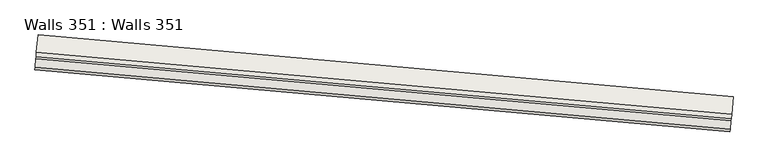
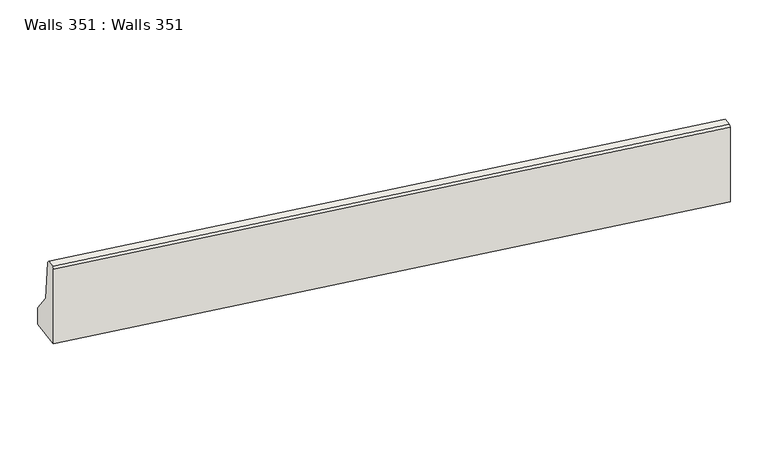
"""IFC4 building model written with IfcOpenShell, lengths in millimetres: wall geometry, Walls 351 : Walls 351."""

from ifc_helpers import new_model, si_unit, origin, place, context, project, spatial, faceted_brep, source, transform, mapped, element, save


def walls_351_walls_351_e7033e0b(model_context):
    return source(origin(), model_context, "Body", "Brep", [
        faceted_brep([(-750369.3142775, -412231.0213133, 637935.0), (-750367.0958443, -412206.1199367, 637960.0), (-750358.2221118, -412106.5144305, 637960.0), (-750356.0036787, -412081.6130539, 637935.0), (-750351.5668124, -412031.8103008, 637430.0), (-750333.8193474, -411832.5992884, 637180.0), (-750333.8193474, -411832.5992884, 636960.0), (-750369.3142775, -412231.0213133, 636960.0), (-742400.8737792, -412940.9199145, 637435.0), (-742400.8737792, -412940.9199145, 636460.0), (-742365.3788491, -412542.4978896, 636460.0), (-742365.3788491, -412542.4978896, 636680.0), (-742383.1263142, -412741.708902, 636930.0), (-742387.5631804, -412791.5116552, 637435.0), (-742389.7816135, -412816.4130317, 637460.0), (-742398.6553461, -412916.0185379, 637460.0)], [[[0, 1, 2, 3, 4, 5, 6, 7]], [[8, 9, 10, 11, 12, 13, 14, 15]], [[8, 15, 1, 0]], [[15, 14, 2, 1]], [[14, 13, 3, 2]], [[13, 12, 4, 3]], [[12, 11, 5, 4]], [[11, 10, 6, 5]], [[10, 9, 7, 6]], [[9, 8, 0, 7]]]),
    ])


if __name__ == "__main__":
    model = new_model("IFC4")
    model_context = context("Model", 3, world=origin())
    ifc_project = project(units=[si_unit("LENGTHUNIT", "METRE", prefix="MILLI")], contexts=[model_context])
    site = spatial("IfcSite", under=ifc_project)
    building = spatial("IfcBuilding", under=site)
    placement = place(None, origin())
    walls_351_walls_351_shape = walls_351_walls_351_e7033e0b(model_context)
    element("IfcWall", 1, ObjectType="Walls 351 : Walls 351", at=placement, inside=building, context=model_context, shape_type="MappedRepresentation", body=[
        mapped(walls_351_walls_351_shape, transform((0.0, 0.0, 0.0), x_axis=(1.0, 0.0, 0.0), y_axis=(0.0, 1.0, 0.0), z_axis=(0.0, 0.0, 1.0))),
    ])
    save(model, "model.ifc")
